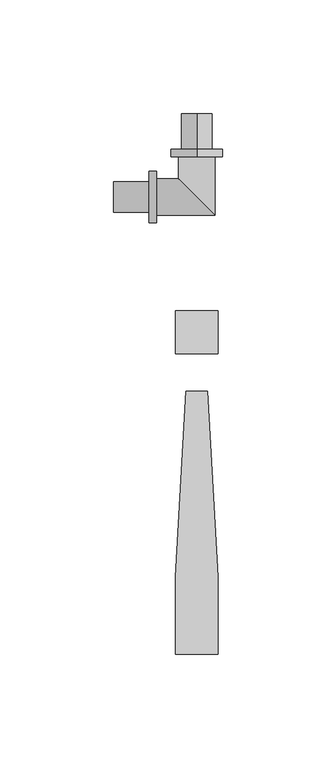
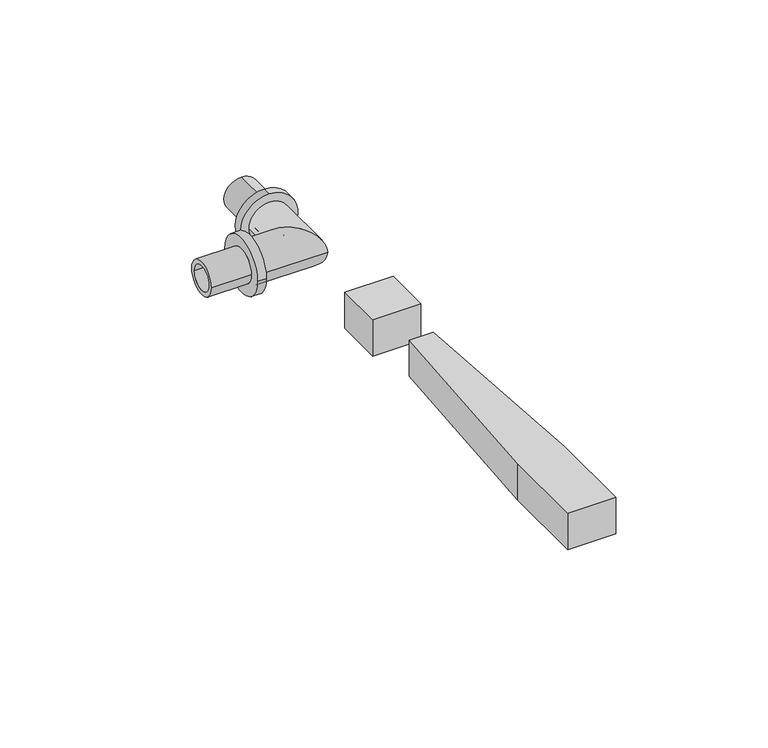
"""IFC4 building model written with IfcOpenShell, lengths in millimetres: pipe fitting geometry, RAUTITAN_Corner_LX : RTI LX C DN."""

from ifc_helpers import new_model, si_unit, frame, origin, origin_with_axes, place, context, project, spatial, polyline, circle_curve, ellipse_curve, outline, extrude, source, transform, mapped, element, save
from ifc_brep_helpers import plane_surface, cylinder_surface, revolved_surface, advanced_brep


def pipe_fitting_fe2e0209(model_context):
    return source(origin(), model_context, "Body", "SolidModel", [
        extrude(outline(polyline([(4.7088895, -85.3166715), (9.4177791, -166.6553807), (9.4177791, -200.6844652), (-9.4177791, -200.6844652), (-9.4177791, -166.6553807), (-4.7088895, -85.3166715), (4.7088895, -85.3166715)])), origin_with_axes(), (0.0, 0.0, 1.0), 15.0),
        extrude(outline(polyline([(9.4177791, -50.0), (9.4177791, -68.8355582), (-9.4177791, -68.8355582), (-9.4177791, -50.0), (9.4177791, -50.0)])), origin_with_axes(), (0.0, 0.0, 1.0), 15.0),
        advanced_brep(
        [(0.0, 21.0, 11.25), (0.0, 21.0, -11.25), (0.0, 17.7, -11.25), (0.0, 17.7, 11.25), (0.0, 36.5, 6.75), (0.0, 36.5, -6.75), (0.0, 21.0, -6.75), (0.0, 21.0, 6.75), (0.0, 17.7, 4.95), (0.0, 17.7, -4.95), (0.0, 36.5, -4.95), (0.0, 36.5, 4.95)],
        [
            (0, 1, circle_curve(frame((0.0, 21.0, 0.0), z_axis=(0.0, -1.0, 0.0), x_axis=(0.0, 0.0, -1.0)), 11.25)),
            (1, 2),
            (2, 3, circle_curve(frame((0.0, 17.7, 0.0), z_axis=(0.0, 1.0, 0.0), x_axis=(0.0, 0.0, -1.0)), 11.25)),
            (3, 0),
            (4, 5, circle_curve(frame((0.0, 36.5, 0.0), z_axis=(0.0, -1.0, 0.0), x_axis=(0.0, 0.0, -1.0)), 6.75)),
            (5, 6),
            (6, 7, circle_curve(frame((0.0, 21.0, 0.0), z_axis=(0.0, 1.0, 0.0), x_axis=(0.0, 0.0, -1.0)), 6.75)),
            (7, 4),
            (8, 9, circle_curve(frame((0.0, 17.7, 0.0), z_axis=(0.0, -1.0, 0.0), x_axis=(0.0, 0.0, -1.0)), 4.95)),
            (9, 10),
            (10, 11, circle_curve(frame((0.0, 36.5, 0.0), z_axis=(0.0, 1.0, 0.0), x_axis=(0.0, 0.0, -1.0)), 4.95)),
            (11, 8),
            (1, 0, circle_curve(frame((0.0, 21.0, 0.0), z_axis=(0.0, -1.0, 0.0), x_axis=(0.0, 0.0, 1.0)), 11.25)),
            (3, 2, circle_curve(frame((0.0, 17.7, 0.0), z_axis=(0.0, 1.0, 0.0), x_axis=(0.0, 0.0, 1.0)), 11.25)),
            (6, 7, circle_curve(frame((0.0, 21.0, 0.0), z_axis=(0.0, -1.0, 0.0), x_axis=(0.0, 0.0, 1.0)), 6.75)),
            (5, 4, circle_curve(frame((0.0, 36.5, 0.0), z_axis=(0.0, -1.0, 0.0), x_axis=(0.0, 0.0, 1.0)), 6.75)),
            (10, 11, circle_curve(frame((0.0, 36.5, 0.0), z_axis=(0.0, -1.0, 0.0), x_axis=(0.0, 0.0, 1.0)), 4.95)),
            (9, 8, circle_curve(frame((0.0, 17.7, 0.0), z_axis=(0.0, -1.0, 0.0), x_axis=(0.0, 0.0, 1.0)), 4.95)),
        ],
        [
            cylinder_surface(frame((0.0, 17.7, 0.0), z_axis=(0.0, 1.0, 0.0), x_axis=(0.0, 0.0, -1.0)), 11.25),
            cylinder_surface(frame((0.0, 17.7, 0.0), z_axis=(0.0, 1.0, 0.0), x_axis=(0.0, 0.0, -1.0)), 6.75),
            revolved_surface(polyline([(0.0, 36.5, -4.95), (0.0, 17.7, -4.95)]), (0.0, 17.7, 0.0), (0.0, 1.0, 0.0)),
            cylinder_surface(frame((0.0, 17.7, 0.0), z_axis=(0.0, 1.0, 0.0), x_axis=(0.0, 0.0, 1.0)), 11.25),
            plane_surface(frame((0.0, 21.0, 0.0), z_axis=(0.0, 1.0, 0.0), x_axis=(0.0, 0.0, 1.0))),
            cylinder_surface(frame((0.0, 17.7, 0.0), z_axis=(0.0, 1.0, 0.0), x_axis=(0.0, 0.0, 1.0)), 6.75),
            plane_surface(frame((0.0, 36.5, 0.0), z_axis=(0.0, 1.0, 0.0), x_axis=(0.0, 0.0, 1.0))),
            revolved_surface(polyline([(0.0, 36.5, 4.95), (0.0, 17.7, 4.95)]), (0.0, 17.7, 0.0), (0.0, 1.0, 0.0)),
            plane_surface(frame((0.0, 17.7, 0.0), z_axis=(0.0, -1.0, 0.0), x_axis=(0.0, 0.0, 1.0))),
        ],
        [
            (0, [[1, 2, 3, 4]]),
            (1, [[5, 6, 7, 8]]),
            (2, [[9, 10, 11, 12]]),
            (3, [[13, -4, 14, -2]]),
            (4, [[-13, -1], [15, -7]]),
            (5, [[16, -8, -15, -6]]),
            (6, [[-16, -5], [17, -11]]),
            (7, [[18, -12, -17, -10]]),
            (8, [[-14, -3], [-18, -9]]),
        ],
    ),
        advanced_brep(
        [(-21.0, -11.25, 0.0), (-21.0, 11.25, 0.0), (-17.7, 11.25, 0.0), (-17.7, -11.25, 0.0), (-36.5, -6.75, 0.0), (-36.5, 6.75, 0.0), (-21.0, 6.75, 0.0), (-21.0, -6.75, 0.0), (-17.7, -4.95, 0.0), (-17.7, 4.95, 0.0), (-36.5, 4.95, 0.0), (-36.5, -4.95, 0.0)],
        [
            (0, 1, circle_curve(frame((-21.0, 0.0, 0.0), z_axis=(1.0, 0.0, 0.0), x_axis=(0.0, 1.0, 0.0)), 11.25)),
            (1, 2),
            (2, 3, circle_curve(frame((-17.7, 0.0, 0.0), z_axis=(-1.0, 0.0, 0.0), x_axis=(0.0, 1.0, 0.0)), 11.25)),
            (3, 0),
            (4, 5, circle_curve(frame((-36.5, 0.0, 0.0), z_axis=(1.0, 0.0, 0.0), x_axis=(0.0, 1.0, 0.0)), 6.75)),
            (5, 6),
            (6, 7, circle_curve(frame((-21.0, 0.0, 0.0), z_axis=(-1.0, 0.0, 0.0), x_axis=(0.0, 1.0, 0.0)), 6.75)),
            (7, 4),
            (8, 9, circle_curve(frame((-17.7, 0.0, 0.0), z_axis=(1.0, 0.0, 0.0), x_axis=(0.0, 1.0, 0.0)), 4.95)),
            (9, 10),
            (10, 11, circle_curve(frame((-36.5, 0.0, 0.0), z_axis=(-1.0, 0.0, 0.0), x_axis=(0.0, 1.0, 0.0)), 4.95)),
            (11, 8),
            (1, 0, circle_curve(frame((-21.0, 0.0, 0.0), z_axis=(1.0, 0.0, 0.0), x_axis=(0.0, -1.0, 0.0)), 11.25)),
            (3, 2, circle_curve(frame((-17.7, 0.0, 0.0), z_axis=(-1.0, 0.0, 0.0), x_axis=(0.0, -1.0, 0.0)), 11.25)),
            (6, 7, circle_curve(frame((-21.0, 0.0, 0.0), z_axis=(1.0, 0.0, 0.0), x_axis=(0.0, -1.0, 0.0)), 6.75)),
            (5, 4, circle_curve(frame((-36.5, 0.0, 0.0), z_axis=(1.0, 0.0, 0.0), x_axis=(0.0, -1.0, 0.0)), 6.75)),
            (10, 11, circle_curve(frame((-36.5, 0.0, 0.0), z_axis=(1.0, 0.0, 0.0), x_axis=(0.0, -1.0, 0.0)), 4.95)),
            (9, 8, circle_curve(frame((-17.7, 0.0, 0.0), z_axis=(1.0, 0.0, 0.0), x_axis=(0.0, -1.0, 0.0)), 4.95)),
        ],
        [
            cylinder_surface(frame((-17.7, 0.0, 0.0), z_axis=(-1.0, 0.0, 0.0), x_axis=(0.0, 1.0, 0.0)), 11.25),
            cylinder_surface(frame((-17.7, 0.0, 0.0), z_axis=(-1.0, 0.0, 0.0), x_axis=(0.0, 1.0, 0.0)), 6.75),
            revolved_surface(polyline([(-36.5, 4.95, 0.0), (-17.7, 4.95, 0.0)]), (-17.7, 0.0, 0.0), (-1.0, 0.0, 0.0)),
            cylinder_surface(frame((-17.7, 0.0, 0.0), z_axis=(-1.0, 0.0, 0.0), x_axis=(0.0, -1.0, 0.0)), 11.25),
            plane_surface(frame((-21.0, 0.0, 0.0), z_axis=(-1.0, 0.0, 0.0), x_axis=(0.0, -1.0, 0.0))),
            cylinder_surface(frame((-17.7, 0.0, 0.0), z_axis=(-1.0, 0.0, 0.0), x_axis=(0.0, -1.0, 0.0)), 6.75),
            plane_surface(frame((-36.5, 0.0, 0.0), z_axis=(-1.0, 0.0, 0.0), x_axis=(0.0, -1.0, 0.0))),
            revolved_surface(polyline([(-36.5, -4.95, 0.0), (-17.7, -4.95, 0.0)]), (-17.7, 0.0, 0.0), (-1.0, 0.0, 0.0)),
            plane_surface(frame((-17.7, 0.0, 0.0), z_axis=(1.0, 0.0, 0.0), x_axis=(0.0, -1.0, 0.0))),
        ],
        [
            (0, [[1, 2, 3, 4]]),
            (1, [[5, 6, 7, 8]]),
            (2, [[9, 10, 11, 12]]),
            (3, [[13, -4, 14, -2]]),
            (4, [[-13, -1], [15, -7]]),
            (5, [[16, -8, -15, -6]]),
            (6, [[-16, -5], [17, -11]]),
            (7, [[18, -12, -17, -10]]),
            (8, [[-14, -3], [-18, -9]]),
        ],
    ),
        advanced_brep(
        [(-17.7, -8.05, 0.0), (-17.7, 8.05, 0.0), (-17.7, -4.95, 0.0), (-17.7, 4.95, 0.0), (-4.95, 4.95, 0.0), (4.95, -4.95, 0.0), (8.05, 17.7, 0.0), (-8.05, 17.7, 0.0), (4.95, 17.7, 0.0), (-4.95, 17.7, 0.0), (8.05, -8.05, 0.0), (-8.05, 8.05, 0.0)],
        [
            (0, 1, circle_curve(frame((-17.7, 0.0, 0.0), z_axis=(-1.0, 0.0, 0.0), x_axis=(0.0, 1.0, 0.0)), 8.05)),
            (1, 0, circle_curve(frame((-17.7, 0.0, 0.0), z_axis=(-1.0, 0.0, 0.0), x_axis=(0.0, 1.0, 0.0)), 8.05)),
            (2, 3, circle_curve(frame((-17.7, 0.0, 0.0), z_axis=(1.0, 0.0, 0.0), x_axis=(0.0, 1.0, 0.0)), 4.95)),
            (3, 2, circle_curve(frame((-17.7, 0.0, 0.0), z_axis=(1.0, 0.0, 0.0), x_axis=(0.0, 1.0, 0.0)), 4.95)),
            (3, 4),
            (4, 5, ellipse_curve(frame((0.0, 0.0, 0.0), z_axis=(0.7071067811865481, 0.7071067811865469, 0.0), x_axis=(0.7071067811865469, -0.7071067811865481, 0.0)), 7.0003571, 4.95)),
            (5, 2),
            (5, 4, ellipse_curve(frame((0.0, 0.0, 0.0), z_axis=(0.7071067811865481, 0.7071067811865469, 0.0), x_axis=(0.7071067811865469, -0.7071067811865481, 0.0)), 7.0003571, 4.95)),
            (6, 7, circle_curve(frame((0.0, 17.7, 0.0), z_axis=(0.0, 1.0, 0.0), x_axis=(-1.0, 0.0, 0.0)), 8.05)),
            (7, 6, circle_curve(frame((0.0, 17.7, 0.0), z_axis=(0.0, 1.0, 0.0), x_axis=(-1.0, 0.0, 0.0)), 8.05)),
            (8, 9, circle_curve(frame((0.0, 17.7, 0.0), z_axis=(0.0, -1.0, 0.0), x_axis=(-1.0, 0.0, 0.0)), 4.95)),
            (9, 8, circle_curve(frame((0.0, 17.7, 0.0), z_axis=(0.0, -1.0, 0.0), x_axis=(-1.0, 0.0, 0.0)), 4.95)),
            (4, 9),
            (8, 5),
            (0, 10),
            (10, 11, ellipse_curve(frame((0.0, 0.0, 0.0), z_axis=(-0.7071067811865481, -0.7071067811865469, 0.0), x_axis=(-0.7071067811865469, 0.7071067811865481, 0.0)), 11.3844192, 8.05)),
            (11, 1),
            (11, 10, ellipse_curve(frame((0.0, 0.0, 0.0), z_axis=(-0.7071067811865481, -0.7071067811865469, 0.0), x_axis=(-0.7071067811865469, 0.7071067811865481, 0.0)), 11.3844192, 8.05)),
            (10, 6),
            (7, 11),
        ],
        [
            plane_surface(frame((-17.7, 0.0, 0.0), z_axis=(-1.0, 0.0, 0.0), x_axis=(0.0, 0.0, 1.0))),
            revolved_surface(polyline([(4.949999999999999, 4.95, 0.0), (-17.7, 4.95, 0.0)]), (-17.7, 0.0, 0.0), (1.0, 0.0, 0.0)),
            plane_surface(frame((0.0, 17.7, 0.0), z_axis=(0.0, 1.0, 0.0), x_axis=(0.0, 0.0, 1.0))),
            revolved_surface(polyline([(-4.95, 17.7, 0.0), (-4.95, -4.95, 0.0)]), (0.0, 0.0, 0.0), (0.0, 1.0, 0.0)),
            cylinder_surface(frame((-17.7, 0.0, 0.0), z_axis=(-1.0, 0.0, 0.0), x_axis=(0.0, 1.0, 0.0)), 8.05),
            cylinder_surface(frame((0.0, 0.0, 0.0), z_axis=(0.0, -1.0, 0.0), x_axis=(-1.0, 0.0, 0.0)), 8.05),
        ],
        [
            (0, [[1, 2], [3, 4]]),
            (1, [[-4, 5, 6, 7]]),
            (1, [[-3, -7, 8, -5]]),
            (2, [[9, 10], [11, 12]]),
            (3, [[-6, 13, -11, 14]]),
            (3, [[-8, -14, -12, -13]]),
            (4, [[-1, 15, 16, 17]]),
            (4, [[-2, -17, 18, -15]]),
            (5, [[-16, 19, -10, 20]]),
            (5, [[-18, -20, -9, -19]]),
        ],
    ),
    ])


if __name__ == "__main__":
    model = new_model("IFC4")
    model_context = context("Model", 3, world=origin())
    ifc_project = project(units=[si_unit("LENGTHUNIT", "METRE", prefix="MILLI")], contexts=[model_context])
    site = spatial("IfcSite", under=ifc_project)
    building = spatial("IfcBuilding", under=site)
    placement = place(None, origin())
    pipe_fitting_shape = pipe_fitting_fe2e0209(model_context)
    element("IfcPipeFitting", 1, ObjectType="RAUTITAN_Corner_LX : RTI LX C DN", at=placement, inside=building, context=model_context, shape_type="MappedRepresentation", body=[
        mapped(pipe_fitting_shape, transform((0.0, 0.0, 0.0), x_axis=(1.0, 0.0, 0.0), y_axis=(0.0, 1.0, 0.0), z_axis=(0.0, 0.0, 1.0))),
    ])
    save(model, "model.ifc")
